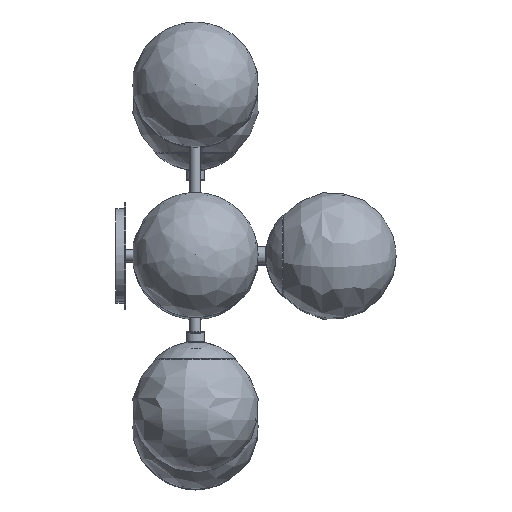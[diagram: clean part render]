
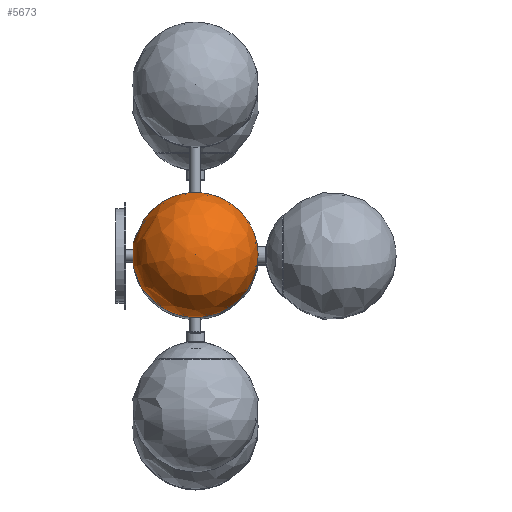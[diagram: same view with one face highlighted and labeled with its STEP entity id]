
A CAD part, top view. The second image highlights one B-rep face of the part: STEP entity #5673.
In plain terms, the highlighted free-form (B-spline) face has degree [2, 2] with [5, 9] control points.
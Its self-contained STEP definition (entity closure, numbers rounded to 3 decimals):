
#19=(
BOUNDED_SURFACE()
B_SPLINE_SURFACE(2,2,((#10481,#10482,#10483,#10484,#10485,#10486,#10487,
#10488,#10489),(#10490,#10491,#10492,#10493,#10494,#10495,#10496,#10497,
#10498),(#10499,#10500,#10501,#10502,#10503,#10504,#10505,#10506,#10507),
(#10508,#10509,#10510,#10511,#10512,#10513,#10514,#10515,#10516),(#10517,
#10518,#10519,#10520,#10521,#10522,#10523,#10524,#10525)),.UNSPECIFIED.,
 .F.,.T.,.F.)
B_SPLINE_SURFACE_WITH_KNOTS((3,2,3),(3,2,2,2,3),(-1.227,0.173,
1.572),(-3.142,-1.571,0.,1.571,
3.142),.UNSPECIFIED.)
GEOMETRIC_REPRESENTATION_ITEM()
RATIONAL_B_SPLINE_SURFACE(((1.,0.707,1.,0.707,1.,
0.707,1.,0.707,1.),(0.765,0.541,
0.765,0.541,0.765,0.541,
0.765,0.541,0.765),(1.,0.707,
1.,0.707,1.,0.707,1.,0.707,1.),(0.765,
0.541,0.765,0.541,0.765,
0.541,0.765,0.541,0.765),
(1.,0.707,1.,0.707,1.,0.707,1.,0.707,
1.)))
REPRESENTATION_ITEM('')
SURFACE()
);
#1302=FACE_OUTER_BOUND('',#1823,.T.);
#1823=EDGE_LOOP('',(#4810,#4811,#4812));
#2320=CIRCLE('',#6558,25.378);
#2322=CIRCLE('',#6560,75.);
#2828=VERTEX_POINT('',#10478);
#2829=VERTEX_POINT('',#10526);
#3509=EDGE_CURVE('',#2828,#2828,#2320,.T.);
#3511=EDGE_CURVE('',#2829,#2828,#2322,.T.);
#4810=ORIENTED_EDGE('',*,*,#3511,.T.);
#4811=ORIENTED_EDGE('',*,*,#3509,.T.);
#4812=ORIENTED_EDGE('',*,*,#3511,.F.);
#5673=ADVANCED_FACE('',(#1302),#19,.F.);
#6558=AXIS2_PLACEMENT_3D('',#10479,#8374,#8375);
#6560=AXIS2_PLACEMENT_3D('',#10527,#8378,#8379);
#8374=DIRECTION('center_axis',(0.,0.,
1.));
#8375=DIRECTION('ref_axis',(-0.182,0.983,0.));
#8378=DIRECTION('center_axis',(0.182,-0.983,0.));
#8379=DIRECTION('ref_axis',(-0.983,-0.182,0.));
#10478=CARTESIAN_POINT('',(-24.956,-4.611,1446.013));
#10479=CARTESIAN_POINT('Origin',(0.,0.,
1446.013));
#10481=CARTESIAN_POINT('Ctrl Pts',(-24.956,-4.611,
1446.013));
#10482=CARTESIAN_POINT('Ctrl Pts',(-20.344,-29.567,1446.013));
#10483=CARTESIAN_POINT('Ctrl Pts',(4.611,-24.956,1446.013));
#10484=CARTESIAN_POINT('Ctrl Pts',(29.567,-20.344,1446.013));
#10485=CARTESIAN_POINT('Ctrl Pts',(24.956,4.611,1446.013));
#10486=CARTESIAN_POINT('Ctrl Pts',(20.344,29.567,1446.013));
#10487=CARTESIAN_POINT('Ctrl Pts',(-4.611,24.956,1446.013));
#10488=CARTESIAN_POINT('Ctrl Pts',(-29.567,20.344,1446.013));
#10489=CARTESIAN_POINT('Ctrl Pts',(-24.956,-4.611,
1446.013));
#10490=CARTESIAN_POINT('Ctrl Pts',(-83.428,-15.416,
1467.289));
#10491=CARTESIAN_POINT('Ctrl Pts',(-68.012,-98.844,
1467.289));
#10492=CARTESIAN_POINT('Ctrl Pts',(15.416,-83.428,1467.289));
#10493=CARTESIAN_POINT('Ctrl Pts',(98.844,-68.012,1467.289));
#10494=CARTESIAN_POINT('Ctrl Pts',(83.428,15.416,1467.289));
#10495=CARTESIAN_POINT('Ctrl Pts',(68.012,98.844,1467.289));
#10496=CARTESIAN_POINT('Ctrl Pts',(-15.416,83.428,1467.289));
#10497=CARTESIAN_POINT('Ctrl Pts',(-98.844,68.012,1467.289));
#10498=CARTESIAN_POINT('Ctrl Pts',(-83.428,-15.416,
1467.289));
#10499=CARTESIAN_POINT('Ctrl Pts',(-72.765,-13.445,
1529.505));
#10500=CARTESIAN_POINT('Ctrl Pts',(-59.32,-86.211,
1529.505));
#10501=CARTESIAN_POINT('Ctrl Pts',(13.445,-72.765,1529.505));
#10502=CARTESIAN_POINT('Ctrl Pts',(86.211,-59.32,1529.505));
#10503=CARTESIAN_POINT('Ctrl Pts',(72.765,13.445,1529.505));
#10504=CARTESIAN_POINT('Ctrl Pts',(59.32,86.211,1529.505));
#10505=CARTESIAN_POINT('Ctrl Pts',(-13.445,72.765,1529.505));
#10506=CARTESIAN_POINT('Ctrl Pts',(-86.211,59.32,1529.505));
#10507=CARTESIAN_POINT('Ctrl Pts',(-72.765,-13.445,
1529.505));
#10508=CARTESIAN_POINT('Ctrl Pts',(-62.103,-11.475,
1591.721));
#10509=CARTESIAN_POINT('Ctrl Pts',(-50.627,-73.578,
1591.721));
#10510=CARTESIAN_POINT('Ctrl Pts',(11.475,-62.103,1591.721));
#10511=CARTESIAN_POINT('Ctrl Pts',(73.578,-50.627,1591.721));
#10512=CARTESIAN_POINT('Ctrl Pts',(62.103,11.475,1591.721));
#10513=CARTESIAN_POINT('Ctrl Pts',(50.627,73.578,1591.721));
#10514=CARTESIAN_POINT('Ctrl Pts',(-11.475,62.103,1591.721));
#10515=CARTESIAN_POINT('Ctrl Pts',(-73.578,50.627,1591.721));
#10516=CARTESIAN_POINT('Ctrl Pts',(-62.103,-11.475,
1591.721));
#10517=CARTESIAN_POINT('Ctrl Pts',(0.,0.,
1591.628));
#10518=CARTESIAN_POINT('Ctrl Pts',(0.,0.,
1591.628));
#10519=CARTESIAN_POINT('Ctrl Pts',(0.,0.,
1591.628));
#10520=CARTESIAN_POINT('Ctrl Pts',(0.,0.,
1591.628));
#10521=CARTESIAN_POINT('Ctrl Pts',(0.,0.,
1591.628));
#10522=CARTESIAN_POINT('Ctrl Pts',(0.,0.,
1591.628));
#10523=CARTESIAN_POINT('Ctrl Pts',(0.,0.,
1591.628));
#10524=CARTESIAN_POINT('Ctrl Pts',(0.,0.,
1591.628));
#10525=CARTESIAN_POINT('Ctrl Pts',(0.,0.,
1591.628));
#10526=CARTESIAN_POINT('',(0.,0.,1591.628));
#10527=CARTESIAN_POINT('Origin',(-0.109,-0.02,
1516.628));
